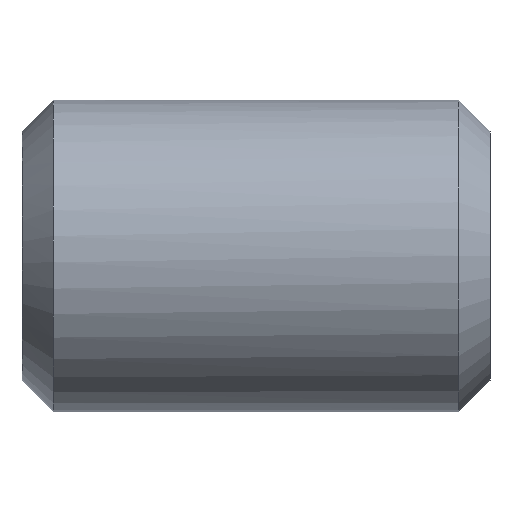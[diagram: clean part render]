
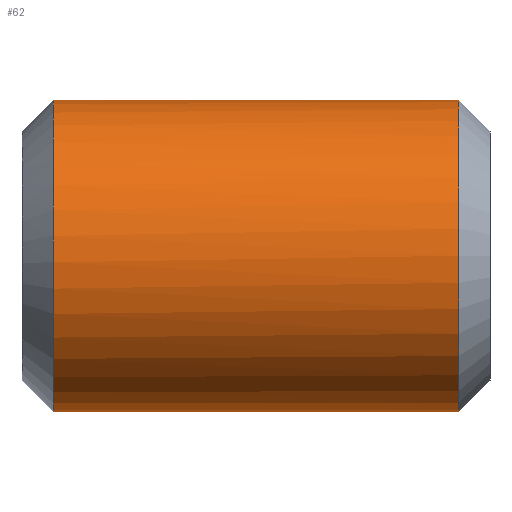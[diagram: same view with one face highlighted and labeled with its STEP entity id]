
A CAD part, top view. The second image highlights one B-rep face of the part: STEP entity #62.
In plain terms, the highlighted cylindrical face has radius 1 mm (diameter 2 mm), a partial arc.
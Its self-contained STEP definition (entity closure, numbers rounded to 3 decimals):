
#19=CYLINDRICAL_SURFACE('',#561,1.);
#62=ADVANCED_FACE('',(#88),#19,.T.);
#88=FACE_OUTER_BOUND('',#117,.F.);
#117=EDGE_LOOP('',(#232,#233,#234,#235,#236,#237));
#232=ORIENTED_EDGE('',*,*,#338,.T.);
#233=ORIENTED_EDGE('',*,*,#347,.T.);
#234=ORIENTED_EDGE('',*,*,#348,.T.);
#235=ORIENTED_EDGE('',*,*,#349,.T.);
#236=ORIENTED_EDGE('',*,*,#339,.F.);
#237=ORIENTED_EDGE('',*,*,#355,.T.);
#262=LINE('',#859,#278);
#263=LINE('',#860,#279);
#278=VECTOR('',#606,2.6);
#279=VECTOR('',#607,2.6);
#338=EDGE_CURVE('',#393,#399,#262,.T.);
#339=EDGE_CURVE('',#395,#397,#263,.T.);
#347=EDGE_CURVE('',#399,#386,#375,.T.);
#348=EDGE_CURVE('',#386,#385,#376,.T.);
#349=EDGE_CURVE('',#385,#397,#377,.T.);
#355=EDGE_CURVE('',#395,#393,#383,.T.);
#375=CIRCLE('',#527,1.);
#376=CIRCLE('',#528,1.);
#377=CIRCLE('',#529,1.);
#383=CIRCLE('',#535,1.);
#385=VERTEX_POINT('',#699);
#386=VERTEX_POINT('',#700);
#393=VERTEX_POINT('',#707);
#395=VERTEX_POINT('',#709);
#397=VERTEX_POINT('',#711);
#399=VERTEX_POINT('',#713);
#527=AXIS2_PLACEMENT_3D('',#868,#622,#623);
#528=AXIS2_PLACEMENT_3D('',#869,#624,#625);
#529=AXIS2_PLACEMENT_3D('',#870,#626,#627);
#535=AXIS2_PLACEMENT_3D('',#876,#638,#639);
#561=AXIS2_PLACEMENT_3D('',#902,#690,#691);
#606=DIRECTION('',(-1.,0.,0.));
#607=DIRECTION('',(-1.,0.,0.));
#622=DIRECTION('',(-1.,0.,0.));
#623=DIRECTION('',(0.,-1.,0.));
#624=DIRECTION('',(-1.,0.,0.));
#625=DIRECTION('',(0.,0.45,0.893));
#626=DIRECTION('',(-1.,0.,0.));
#627=DIRECTION('',(0.,0.998,0.057));
#638=DIRECTION('',(1.,0.,0.));
#639=DIRECTION('',(0.,1.,0.));
#690=DIRECTION('',(1.,0.,0.));
#691=DIRECTION('',(0.,1.,0.));
#699=CARTESIAN_POINT('',(58.1,-11.983,-69.36));
#700=CARTESIAN_POINT('',(58.1,-12.531,-68.524));
#707=CARTESIAN_POINT('',(60.7,-13.981,-69.417));
#709=CARTESIAN_POINT('',(60.7,-11.981,-69.417));
#711=CARTESIAN_POINT('',(58.1,-11.981,-69.417));
#713=CARTESIAN_POINT('',(58.1,-13.981,-69.417));
#859=CARTESIAN_POINT('',(60.7,-13.981,-69.417));
#860=CARTESIAN_POINT('',(60.7,-11.981,-69.417));
#868=CARTESIAN_POINT('',(58.1,-12.981,-69.417));
#869=CARTESIAN_POINT('',(58.1,-12.981,-69.417));
#870=CARTESIAN_POINT('',(58.1,-12.981,-69.417));
#876=CARTESIAN_POINT('',(60.7,-12.981,-69.417));
#902=CARTESIAN_POINT('',(62.9,-12.981,-69.417));
